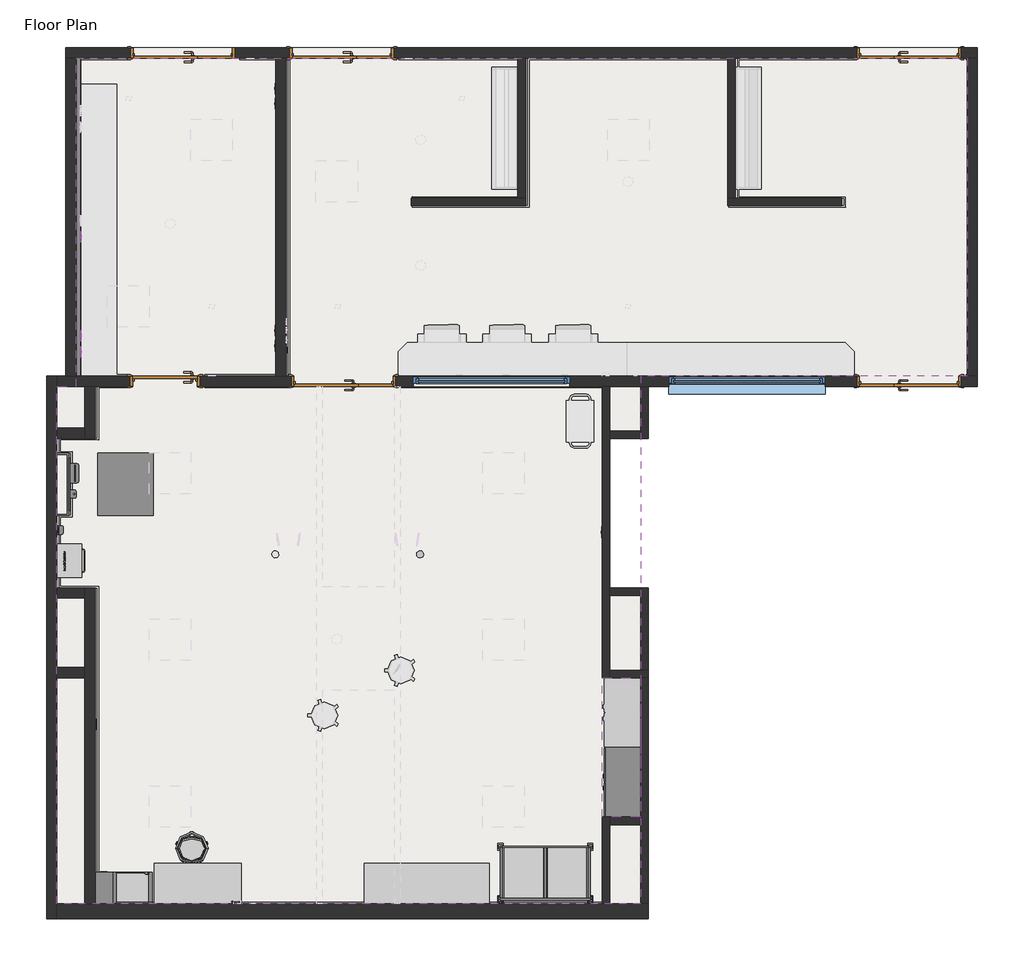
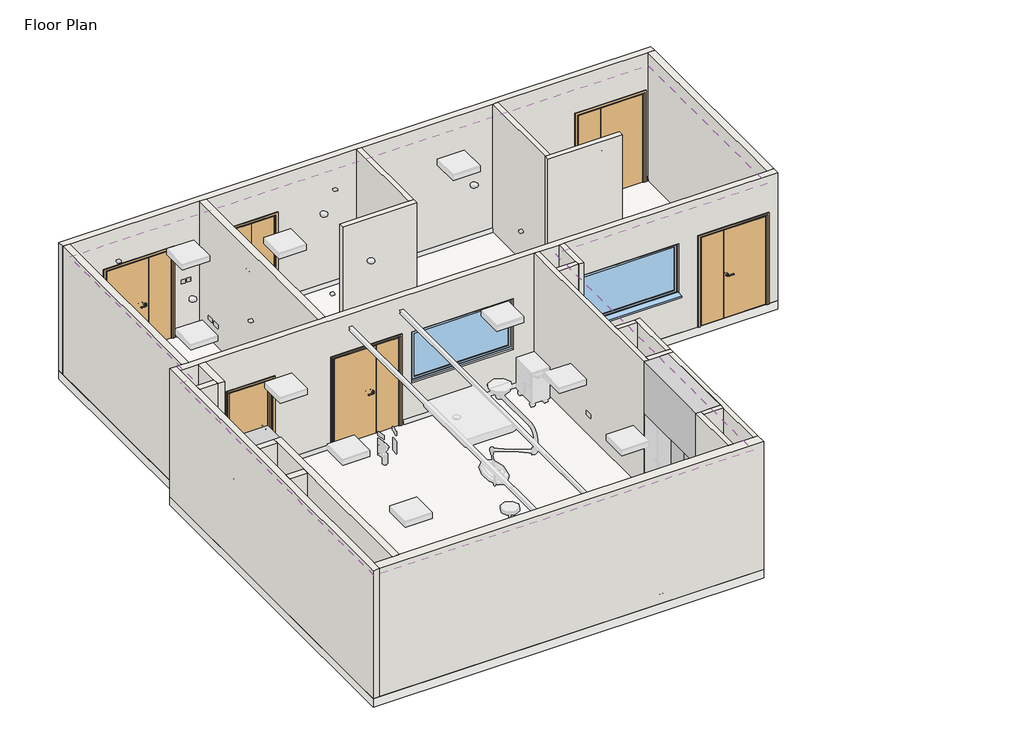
# One storey, part 1 of 2: 25 walls, 13 furniture elements, 6 doors, 4 flow terminals, 2 windows, 1 covering, 1 slab.
"""IFC4 building model written with IfcOpenShell, lengths in millimetres."""

from ifc_helpers import new_model, si_unit, frame, origin, origin_with_axes, place, context, project, spatial, polyline, outline, extrude, faceted_brep, transform, mapped, element, save
from components import doors_intays_1_1510x2110mm_sgl_swing_c7e511a1, doors_intays_1_1510x2110mm_sgl_swing_36e02ed7, doors_intsgl_1_1010x2110mm_7920e6b8, flow_terminal_e4480bda, furniture_197fe330, furniture_127ff72e, furniture_4c9f86ae, furniture_9a96ea39, furniture_1bbdebfd, furniture_c6e90a8e, furniture_bd22f9ff, furniture_c4e44aa8, furniture_7efa7f5c, furniture_a2c4847b, furniture_385ba860, furniture_166ce8d1, furniture_26d36cfe, windows_concept_plain_sgl_910x910mm_838159d6, windows_concept_plain_sgl_910x910mm_1e5f782d

model = new_model("IFC4")

# Units and contexts
model_context = context("Model", 3, world=origin())
ifc_project = project(units=[si_unit("LENGTHUNIT", "METRE", prefix="MILLI")], contexts=[model_context])

# Site, building, storey
site = spatial("IfcSite", under=ifc_project)
building = spatial("IfcBuilding", under=site)
storey = spatial("IfcBuildingStorey", under=building, Name="Floor Plan", Elevation=0.0)

# Covering
placement = place(None, origin())
element("IfcCovering", 1, ObjectType="BIMHealth - Generic Ceiling", at=placement, inside=storey, context=model_context, shape_type="SweptSolid", body=[
    extrude(outline(polyline([(23082.333779, 4966.1026634), (23082.333779, -2633.8974181), (14682.1336188, -2633.8974181), (14682.1336188, 4816.1026634), (14957.1336188, 4816.1026634), (14957.1336188, 9541.1029988), (27782.1336188, 9541.1029988), (27782.1336188, 4966.1026634), (23082.333779, 4966.1026634)]), holes=[polyline([(16608.6241155, 3866.7284231), (16008.6241155, 3866.7284231), (16008.6241155, 3266.7284231), (16608.6241155, 3266.7284231), (16608.6241155, 3866.7284231)]), polyline([(21408.6241155, 3866.7284231), (20808.6241155, 3866.7284231), (20808.6241155, 3266.7284231), (21408.6241155, 3266.7284231), (21408.6241155, 3866.7284231)]), polyline([(16608.6241155, -933.2715769), (16008.6241155, -933.2715769), (16008.6241155, -1533.2715769), (16608.6241155, -1533.2715769), (16608.6241155, -933.2715769)]), polyline([(21408.6241155, -933.2715769), (20808.6241155, -933.2715769), (20808.6241155, -1533.2715769), (21408.6241155, -1533.2715769), (21408.6241155, -933.2715769)]), polyline([(16608.6241155, 1466.7284231), (16008.6241155, 1466.7284231), (16008.6241155, 866.7284231), (16608.6241155, 866.7284231), (16608.6241155, 1466.7284231)]), polyline([(21408.6241155, 1466.7284231), (20808.6241155, 1466.7284231), (20808.6241155, 866.7284231), (21408.6241155, 866.7284231), (21408.6241155, 1466.7284231)]), polyline([(16008.6241155, 6266.7284231), (15408.6241155, 6266.7284231), (15408.6241155, 5666.7284231), (16008.6241155, 5666.7284231), (16008.6241155, 6266.7284231)]), polyline([(17208.6241155, 8666.7284231), (16608.6241155, 8666.7284231), (16608.6241155, 8066.7284231), (17208.6241155, 8066.7284231), (17208.6241155, 8666.7284231)]), polyline([(19008.6241155, 8066.7284231), (18408.6241155, 8066.7284231), (18408.6241155, 7466.7284231), (19008.6241155, 7466.7284231), (19008.6241155, 8066.7284231)]), polyline([(23208.6241155, 8666.7284231), (22608.6241155, 8666.7284231), (22608.6241155, 8066.7284231), (23208.6241155, 8066.7284231), (23208.6241155, 8666.7284231)])]), frame((0.0, 0.0, 2700.0), z_axis=(0.0, 0.0, 1.0), x_axis=(1.0, 0.0, 0.0)), (0.0, 0.0, 1.0), 52.0),
])

# Doors
doors_intays_1_1510x2110mm_sgl_swing_shape = doors_intays_1_1510x2110mm_sgl_swing_c7e511a1(model_context)
element("IfcDoor", 2, ObjectType="Doors_IntAys_1 : 1510x2110mm-Sgl_Swing", at=placement, inside=storey, context=model_context, shape_type="MappedRepresentation", body=[
    mapped(doors_intays_1_1510x2110mm_sgl_swing_shape, transform((19196.1336188, 4891.1026634, 0.0), x_axis=(-1.0, 0.0, 0.0), y_axis=(0.0, -1.0, 0.0), z_axis=(0.0, 0.0, 1.0))),
])
element("IfcDoor", 3, ObjectType="Doors_IntAys_1 : 1510x2110mm-Sgl_Swing", at=placement, inside=storey, context=model_context, shape_type="MappedRepresentation", body=[
    mapped(doors_intays_1_1510x2110mm_sgl_swing_shape, transform((19171.1339303, 9616.1029988, 0.0), x_axis=(-1.0, 0.0, 0.0), y_axis=(0.0, -1.0, 0.0), z_axis=(0.0, 0.0, 1.0))),
])
element("IfcDoor", 4, ObjectType="Doors_IntAys_1 : 1510x2110mm-Sgl_Swing", at=placement, inside=storey, context=model_context, shape_type="MappedRepresentation", body=[
    mapped(doors_intays_1_1510x2110mm_sgl_swing_shape, transform((16881.1337745, 9616.1029988, 0.0), x_axis=(-1.0, 0.0, 0.0), y_axis=(0.0, -1.0, 0.0), z_axis=(0.0, 0.0, 1.0))),
])
doors_intays_1_1510x2110mm_sgl_swing_2_shape = doors_intays_1_1510x2110mm_sgl_swing_36e02ed7(model_context)
element("IfcDoor", 5, ObjectType="Doors_IntAys_1 : 1510x2110mm-Sgl_Swing", at=placement, inside=storey, context=model_context, shape_type="MappedRepresentation", body=[
    mapped(doors_intays_1_1510x2110mm_sgl_swing_2_shape, transform((26558.1336188, 9616.1029988, 0.0), x_axis=(1.0, 0.0, 0.0), y_axis=(0.0, 1.0, 0.0), z_axis=(0.0, 0.0, 1.0))),
])
element("IfcDoor", 6, ObjectType="Doors_IntAys_1 : 1510x2110mm-Sgl_Swing", at=placement, inside=storey, context=model_context, shape_type="MappedRepresentation", body=[
    mapped(doors_intays_1_1510x2110mm_sgl_swing_2_shape, transform((26558.1336188, 4891.1026634, 0.0), x_axis=(1.0, 0.0, 0.0), y_axis=(0.0, 1.0, 0.0), z_axis=(0.0, 0.0, 1.0))),
])
doors_intsgl_1_1010x2110mm_shape = doors_intsgl_1_1010x2110mm_7920e6b8(model_context)
element("IfcDoor", 7, ObjectType="Doors_IntSgl_1 : 1010x2110mm", at=placement, inside=storey, context=model_context, shape_type="MappedRepresentation", body=[
    mapped(doors_intsgl_1_1010x2110mm_shape, transform((16237.333647, 4891.1026634, 0.0), x_axis=(-1.0, 0.0, 0.0), y_axis=(0.0, -1.0, 0.0), z_axis=(0.0, 0.0, 1.0))),
])

# Flow terminals
flow_terminal_shape = flow_terminal_e4480bda(model_context)
element("IfcFlowTerminal", 8, ObjectType="BIMHealth-Electrical_Double_Socket-Non_Wall_Mounted_Realistic-LOD2A-v1 : BIMHealth-Electrical_Double_Socket-Non_Wall_Mounted_Realistic-LOD2A-v1", at=placement, inside=storey, context=model_context, shape_type="MappedRepresentation", body=[
    mapped(flow_terminal_shape, transform((15232.333647, -53.896835, 0.0), x_axis=(0.0, -1.0000000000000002, 0.0), y_axis=(1.0000000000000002, 0.0, 0.0), z_axis=(0.0, 0.0, 1.0))),
])
element("IfcFlowTerminal", 9, ObjectType="BIMHealth-Electrical_Double_Socket-Non_Wall_Mounted_Realistic-LOD2A-v1 : BIMHealth-Electrical_Double_Socket-Non_Wall_Mounted_Realistic-LOD2A-v1", at=placement, inside=storey, context=model_context, shape_type="MappedRepresentation", body=[
    mapped(flow_terminal_shape, transform((15017.333647, 5546.1026634, 750.0), x_axis=(0.0, -0.9999999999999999, 0.0), y_axis=(0.9999999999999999, 0.0, 0.0), z_axis=(0.0, 0.0, 1.0))),
])
element("IfcFlowTerminal", 10, ObjectType="BIMHealth-Electrical_Double_Socket-Non_Wall_Mounted_Realistic-LOD2A-v1 : BIMHealth-Electrical_Double_Socket-Non_Wall_Mounted_Realistic-LOD2A-v1", at=placement, inside=storey, context=model_context, shape_type="MappedRepresentation", body=[
    mapped(flow_terminal_shape, transform((15017.333647, 5311.1026634, 750.0), x_axis=(0.0, -0.9999999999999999, 0.0), y_axis=(0.9999999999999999, 0.0, 0.0), z_axis=(0.0, 0.0, 1.0))),
])
element("IfcFlowTerminal", 11, ObjectType="BIMHealth-Electrical_Double_Socket-Non_Wall_Mounted_Realistic-LOD2A-v1 : BIMHealth-Electrical_Double_Socket-Non_Wall_Mounted_Realistic-LOD2A-v1", at=placement, inside=storey, context=model_context, shape_type="MappedRepresentation", body=[
    mapped(flow_terminal_shape, transform((15017.333647, 6971.1026634, 750.0), x_axis=(0.0, -0.9999999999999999, 0.0), y_axis=(0.9999999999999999, 0.0, 0.0), z_axis=(0.0, 0.0, 1.0))),
])

# Furniture
furniture_shape = furniture_197fe330(model_context)
element("IfcFurniture", 12, ObjectType="BIMHealth-Sack_Holder_Domestic-LOD2A-v1 : BIMHealth-Sack_Holder_Domestic-LOD2A-v1", at=placement, inside=storey, context=model_context, shape_type="MappedRepresentation", body=[
    mapped(furniture_shape, transform((14702.333647, 2085.9031744, 0.0), x_axis=(0.0, 1.0000000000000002, 0.0), y_axis=(-1.0000000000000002, 0.0, 0.0), z_axis=(0.0, 0.0, 1.0))),
])
furniture_2_shape = furniture_127ff72e(model_context)
element("IfcFurniture", 13, ObjectType="BIMHealth-Tall_Stool_V2-LOD2A-v1 : BIMHealth-Tall_Stool_V2-LOD2A-v1", at=placement, inside=storey, context=model_context, shape_type="MappedRepresentation", body=[
    mapped(furniture_2_shape, transform((16623.7884839, -1833.8974181, 0.0), x_axis=(1.0, 0.0, 0.0), y_axis=(0.0, 1.0, 0.0), z_axis=(0.0, 0.0, 1.0))),
])
furniture_3_shape = furniture_4c9f86ae(model_context)
element("IfcFurniture", 14, ObjectType="BIMHealth-Worktop_Parametric-LOD2A-v1 : BIMHealth-Worktop_Parametric-LOD2A-v1", at=placement, inside=storey, context=model_context, shape_type="MappedRepresentation", body=[
    mapped(furniture_3_shape, transform((20541.3546438, -2083.8974181, 0.0), x_axis=(0.0, 1.0000000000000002, 0.0), y_axis=(-1.0000000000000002, 0.0, 0.0), z_axis=(0.0, 0.0, 1.0))),
])
furniture_4_shape = furniture_9a96ea39(model_context)
element("IfcFurniture", 15, ObjectType="BIMHealth-Heated_Lotion_Cabinet-LOD2A-v1 : BIMHealth-Heated_Lotion_Cabinet-LOD2A-v1", at=placement, inside=storey, context=model_context, shape_type="MappedRepresentation", body=[
    mapped(furniture_4_shape, transform((15882.333647, -2408.8974181, 0.0), x_axis=(1.0, 0.0, 0.0), y_axis=(0.0, 1.0, 0.0), z_axis=(0.0, 0.0, 1.0))),
])
furniture_5_shape = furniture_1bbdebfd(model_context)
element("IfcFurniture", 16, ObjectType="BIMHealth-Catheter_Rack-v1 : BIMHealth-Catheter_Rack-v1", at=placement, inside=storey, context=model_context, shape_type="MappedRepresentation", body=[
    mapped(furniture_5_shape, transform((21712.1336188, -2193.8974181, 0.0), x_axis=(-1.0000000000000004, 0.0, 0.0), y_axis=(0.0, -1.0000000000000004, 0.0), z_axis=(0.0, 0.0, 1.0))),
])
furniture_6_shape = furniture_c6e90a8e(model_context)
element("IfcFurniture", 17, ObjectType="BIMHealth-Desk_Consultant_Metal-LOD2A-v1 : BIMHealth-Desk_Consultant_Metal-LOD2A-v1", at=placement, inside=storey, context=model_context, shape_type="MappedRepresentation", body=[
    mapped(furniture_6_shape, transform((17333.7884839, -2633.8974181, 5.5970517), x_axis=(-1.0000000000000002, 0.0, 0.0), y_axis=(0.0, -1.0000000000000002, 0.0), z_axis=(0.0, 0.0, 1.0))),
])
furniture_7_shape = furniture_bd22f9ff(model_context)
element("IfcFurniture", 18, ObjectType="BIMHealth-Document_Cabinet-LOD2A-v1 : BIMHealth-Document_Cabinet-LOD2A-v1", at=placement, inside=storey, context=model_context, shape_type="MappedRepresentation", body=[
    mapped(furniture_7_shape, transform((22827.333779, -883.896835, 0.0), x_axis=(0.0, -1.0000000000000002, 0.0), y_axis=(1.0000000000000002, 0.0, 0.0), z_axis=(0.0, 0.0, 1.0))),
])
furniture_8_shape = furniture_c4e44aa8(model_context)
element("IfcFurniture", 19, ObjectType="BIMHealth-Dado_Trunking_Recessed_Non-Wall-Hosted-LOD2A-v1 : BIMHealth-Dado_Trunking_Recessed_Non-Wall-Hosted-LOD2A-v1", at=placement, inside=storey, context=model_context, shape_type="MappedRepresentation", body=[
    mapped(furniture_8_shape, transform((14957.1336188, 7253.6026634, 0.0), x_axis=(0.0, 1.0000000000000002, 0.0), y_axis=(-1.0000000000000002, 0.0, 0.0), z_axis=(0.0, 0.0, 1.0))),
])
furniture_9_shape = furniture_7efa7f5c(model_context)
element("IfcFurniture", 20, ObjectType="BIMHealth-Parametric_Infill-LOD2A-v1 : BIMHealth-Parametric_Infill-LOD2A-v1", at=placement, inside=storey, context=model_context, shape_type="MappedRepresentation", body=[
    mapped(furniture_9_shape, transform((22807.2336989, -384.7075881, 1800.0), x_axis=(1.0, 0.0, 0.0), y_axis=(0.0, 1.0, 0.0), z_axis=(0.0, 0.0, 1.0))),
])
furniture_10_shape = furniture_a2c4847b(model_context)
element("IfcFurniture", 21, ObjectType="BIMHealth-Washstation-LOD2A-v1 : BIMHealth-Washstation-LOD2A-v1", at=placement, inside=storey, context=model_context, shape_type="MappedRepresentation", body=[
    mapped(furniture_10_shape, transform((14682.1336188, 3855.9031744, 0.0), x_axis=(0.0, 1.0000000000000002, 0.0), y_axis=(-1.0000000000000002, 0.0, 0.0), z_axis=(0.0, 0.0, 1.0))),
])
furniture_11_shape = furniture_385ba860(model_context)
element("IfcFurniture", 22, ObjectType="BIMHealth-Alcohol_gel_dispenser-LOD2A-v1 : BIMHealth-Alcohol_gel_dispenser-LOD2A-v1", at=placement, inside=storey, context=model_context, shape_type="MappedRepresentation", body=[
    mapped(furniture_11_shape, transform((14682.1336188, 2685.9031744, 0.0), x_axis=(0.0, 1.0000000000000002, 0.0), y_axis=(-1.0000000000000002, 0.0, 0.0), z_axis=(0.0, 0.0, 1.0))),
])
furniture_12_shape = furniture_166ce8d1(model_context)
element("IfcFurniture", 23, ObjectType="BIMHealth-Paper_Towel_Dispenser-LOD2A-v1 : BIMHealth-Paper_Towel_Dispenser-LOD2A-v1", at=placement, inside=storey, context=model_context, shape_type="MappedRepresentation", body=[
    mapped(furniture_12_shape, transform((14868.1336188, 3425.9031744, 0.0), x_axis=(0.0, 1.0, 0.0), y_axis=(-1.0, 0.0, 0.0), z_axis=(0.0, 0.0, 1.0))),
])
furniture_13_shape = furniture_26d36cfe(model_context)
element("IfcFurniture", 24, ObjectType="BIMHealth-Soap_Dispenser-LOD2A-v1 : BIMHealth-Soap_Dispenser-LOD2A-v1", at=placement, inside=storey, context=model_context, shape_type="MappedRepresentation", body=[
    mapped(furniture_13_shape, transform((14868.1336188, 3206.1026634, 0.0), x_axis=(0.0, 1.0000000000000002, 0.0), y_axis=(-1.0000000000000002, 0.0, 0.0), z_axis=(0.0, 0.0, 1.0))),
])

# Slab
element("IfcSlab", 25, ObjectType="BIMHealth - Generic Floor", at=placement, inside=storey, context=model_context, shape_type="SweptSolid", body=[
    extrude(outline(polyline([(23192.333779, 1916.1036573), (23192.333779, -2853.8974181), (14532.1336188, -2853.8974181), (14532.1336188, 4966.1026634), (14807.1336188, 4966.1026634), (14807.1336188, 9691.1029988), (27932.1336188, 9691.1029988), (27932.1336188, 4816.1026634), (23192.333779, 4816.1026634), (23192.333779, 4065.9031368), (22642.1336188, 4065.9031368), (22642.1336188, 1916.1036573), (23192.333779, 1916.1036573)])), frame((0.0, 0.0, -200.0), z_axis=(0.0, 0.0, 1.0), x_axis=(1.0, 0.0, 0.0)), (0.0, 0.0, 1.0), 200.0),
])

# Walls
element("IfcWall", 26, ObjectType="BIMHealth - Generic Wall", at=placement, inside=storey, context=model_context, shape_type="Brep", body=[
    faceted_brep([(27932.1336188, 4816.1026634, 3000.0), (23192.333779, 4816.1026634, 3000.0), (23082.333779, 4816.1026634, 3000.0), (22642.1336188, 4816.1026634, 3000.0), (22532.1336188, 4816.1026634, 3000.0), (15232.333647, 4816.1026634, 3000.0), (15082.333647, 4816.1026634, 3000.0), (14682.1336188, 4816.1026634, 3000.0), (14682.1336188, 4816.1026634, 0.0), (15082.333647, 4816.1026634, 0.0), (15232.333647, 4816.1026634, 0.0), (15732.333647, 4816.1026634, 0.0), (15732.333647, 4816.1026634, 2110.0), (16742.333647, 4816.1026634, 2110.0), (16742.333647, 4816.1026634, 0.0), (18052.1336188, 4816.1026634, 0.0), (18052.1336188, 4816.1026634, 2110.0), (19562.1336188, 4816.1026634, 2110.0), (19562.1336188, 4816.1026634, 0.0), (22532.1336188, 4816.1026634, 0.0), (22642.1336188, 4816.1026634, 0.0), (23082.333779, 4816.1026634, 0.0), (23192.333779, 4816.1026634, 0.0), (26192.1336188, 4816.1026634, 0.0), (26192.1336188, 4816.1026634, 2110.0), (27702.1336188, 4816.1026634, 2110.0), (27702.1336188, 4816.1026634, 0.0), (27932.1336188, 4816.1026634, 0.0), (25741.6151134, 4816.1026634, 2100.0), (25741.6151134, 4816.1026634, 900.0), (23491.6151134, 4816.1026634, 900.0), (23491.6151134, 4816.1026634, 2100.0), (22062.1336188, 4816.1026634, 2100.0), (22062.1336188, 4816.1026634, 900.0), (19812.1336188, 4816.1026634, 900.0), (19812.1336188, 4816.1026634, 2100.0), (14682.1336188, 4966.1026634, 3000.0), (14807.1336188, 4966.1026634, 3000.0), (14957.1336188, 4966.1026634, 3000.0), (17832.1336188, 4966.1026634, 3000.0), (17982.1336188, 4966.1026634, 3000.0), (27782.1336188, 4966.1026634, 3000.0), (27932.1336188, 4966.1026634, 3000.0), (27932.1336188, 4966.1026634, 0.0), (27782.1336188, 4966.1026634, 0.0), (27702.1336188, 4966.1026634, 0.0), (27702.1336188, 4966.1026634, 2110.0), (26192.1336188, 4966.1026634, 2110.0), (26192.1336188, 4966.1026634, 0.0), (19562.1336188, 4966.1026634, 0.0), (19562.1336188, 4966.1026634, 2110.0), (18052.1336188, 4966.1026634, 2110.0), (18052.1336188, 4966.1026634, 0.0), (17982.1336188, 4966.1026634, 0.0), (17832.1336188, 4966.1026634, 0.0), (16742.333647, 4966.1026634, 0.0), (16742.333647, 4966.1026634, 2110.0), (15732.333647, 4966.1026634, 2110.0), (15732.333647, 4966.1026634, 0.0), (14957.1336188, 4966.1026634, 0.0), (14807.1336188, 4966.1026634, 0.0), (14682.1336188, 4966.1026634, 0.0), (25741.6151134, 4966.1026634, 2100.0), (23491.6151134, 4966.1026634, 2100.0), (23491.6151134, 4966.1026634, 900.0), (25741.6151134, 4966.1026634, 900.0), (22062.1336188, 4966.1026634, 2100.0), (19812.1336188, 4966.1026634, 2100.0), (19812.1336188, 4966.1026634, 900.0), (22062.1336188, 4966.1026634, 900.0)], [[[0, 1, 2, 3, 4, 5, 6, 7, 8, 9, 10, 11, 12, 13, 14, 15, 16, 17, 18, 19, 20, 21, 22, 23, 24, 25, 26, 27], [28, 29, 30, 31], [32, 33, 34, 35]], [[36, 37, 38, 39, 40, 41, 42, 43, 44, 45, 46, 47, 48, 49, 50, 51, 52, 53, 54, 55, 56, 57, 58, 59, 60, 61], [62, 63, 64, 65], [66, 67, 68, 69]], [[43, 27, 26, 45, 44]], [[8, 61, 60, 59, 58, 11, 10, 9]], [[52, 15, 14, 55, 54, 53]], [[18, 49, 48, 23, 22, 21, 20, 19]], [[7, 6, 5, 4, 3, 2, 1, 0, 42, 41, 40, 39, 38, 37, 36]], [[0, 27, 43, 42]], [[8, 7, 36, 61]], [[29, 28, 62, 65]], [[30, 29, 65, 64]], [[31, 30, 64, 63]], [[28, 31, 63, 62]], [[33, 32, 66, 69]], [[34, 33, 69, 68]], [[35, 34, 68, 67]], [[32, 35, 67, 66]], [[51, 16, 15, 52]], [[16, 51, 50, 17]], [[17, 50, 49, 18]], [[25, 46, 45, 26]], [[46, 25, 24, 47]], [[47, 24, 23, 48]], [[57, 12, 11, 58]], [[12, 57, 56, 13]], [[13, 56, 55, 14]]]),
])
element("IfcWall", 27, ObjectType="BIMHealth - Generic Wall", at=placement, inside=storey, context=model_context, shape_type="Brep", body=[
    faceted_brep([(14807.1336188, 9691.1029988, 3000.0), (27932.1336188, 9691.1029988, 3000.0), (27932.1336188, 9691.1029988, 0.0), (27702.1336188, 9691.1029988, 0.0), (27702.1336188, 9691.1029988, 2110.0), (26192.1336188, 9691.1029988, 2110.0), (26192.1336188, 9691.1029988, 0.0), (19537.1339303, 9691.1029988, 0.0), (19537.1339303, 9691.1029988, 2110.0), (18027.1339303, 9691.1029988, 2110.0), (18027.1339303, 9691.1029988, 0.0), (17247.1337745, 9691.1029988, 0.0), (17247.1337745, 9691.1029988, 2110.0), (15737.1337745, 9691.1029988, 2110.0), (15737.1337745, 9691.1029988, 0.0), (14807.1336188, 9691.1029988, 0.0), (27932.1336188, 9541.1029988, 3000.0), (27782.1336188, 9541.1029988, 3000.0), (24447.1333073, 9541.1029988, 3000.0), (24337.1333073, 9541.1029988, 3000.0), (21427.1339303, 9541.1029988, 3000.0), (21317.1339303, 9541.1029988, 3000.0), (17982.1336188, 9541.1029988, 3000.0), (17832.1336188, 9541.1029988, 3000.0), (14957.1336188, 9541.1029988, 3000.0), (14807.1336188, 9541.1029988, 3000.0), (14807.1336188, 9541.1029988, 0.0), (14957.1336188, 9541.1029988, 0.0), (15737.1337745, 9541.1029988, 0.0), (15737.1337745, 9541.1029988, 2110.0), (17247.1337745, 9541.1029988, 2110.0), (17247.1337745, 9541.1029988, 0.0), (17832.1336188, 9541.1029988, 0.0), (17982.1336188, 9541.1029988, 0.0), (18027.1339303, 9541.1029988, 0.0), (18027.1339303, 9541.1029988, 2110.0), (19537.1339303, 9541.1029988, 2110.0), (19537.1339303, 9541.1029988, 0.0), (21317.1339303, 9541.1029988, 0.0), (21427.1339303, 9541.1029988, 0.0), (24337.1333073, 9541.1029988, 0.0), (24447.1333073, 9541.1029988, 0.0), (26192.1336188, 9541.1029988, 0.0), (26192.1336188, 9541.1029988, 2110.0), (27702.1336188, 9541.1029988, 2110.0), (27702.1336188, 9541.1029988, 0.0), (27782.1336188, 9541.1029988, 0.0), (27932.1336188, 9541.1029988, 0.0)], [[[0, 1, 2, 3, 4, 5, 6, 7, 8, 9, 10, 11, 12, 13, 14, 15]], [[16, 17, 18, 19, 20, 21, 22, 23, 24, 25, 26, 27, 28, 29, 30, 31, 32, 33, 34, 35, 36, 37, 38, 39, 40, 41, 42, 43, 44, 45, 46, 47]], [[26, 15, 14, 28, 27]], [[2, 47, 46, 45, 3]], [[10, 34, 33, 32, 31, 11]], [[37, 7, 6, 42, 41, 40, 39, 38]], [[1, 0, 25, 24, 23, 22, 21, 20, 19, 18, 17, 16]], [[0, 15, 26, 25]], [[2, 1, 16, 47]], [[9, 35, 34, 10]], [[35, 9, 8, 36]], [[36, 8, 7, 37]], [[13, 29, 28, 14]], [[29, 13, 12, 30]], [[30, 12, 11, 31]], [[44, 4, 3, 45]], [[4, 44, 43, 5]], [[5, 43, 42, 6]]]),
])
element("IfcWall", 28, ObjectType="BIMHealth - Generic Wall", at=placement, inside=storey, context=model_context, shape_type="SweptSolid", body=[
    extrude(outline(polyline([(14807.1336188, 4966.1026634), (14807.1336188, 9541.1029988), (14957.1336188, 9541.1029988), (14957.1336188, 4966.1026634), (14807.1336188, 4966.1026634)])), origin_with_axes(), (0.0, 0.0, 1.0), 3000.0),
])
element("IfcWall", 29, ObjectType="BIMHealth - Generic Wall", at=placement, inside=storey, context=model_context, shape_type="SweptSolid", body=[
    extrude(outline(polyline([(27932.1336188, 9541.1029988), (27932.1336188, 4966.1026634), (27782.1336188, 4966.1026634), (27782.1336188, 9541.1029988), (27932.1336188, 9541.1029988)])), origin_with_axes(), (0.0, 0.0, 1.0), 3000.0),
])
element("IfcWall", 30, ObjectType="BIMHealth - Generic Wall", at=placement, inside=storey, context=model_context, shape_type="Brep", body=[
    faceted_brep([(14532.1336188, 4966.1026634, 0.0), (14532.1336188, -2853.8974181, 0.0), (14532.1336188, -2853.8974181, 3000.0), (14532.1336188, 4966.1026634, 3000.0), (14682.1336188, 4966.1026634, 0.0), (14682.1336188, 4966.1026634, 3000.0), (14682.1336188, 4816.1026634, 3000.0), (14682.1336188, 4215.9031744, 3000.0), (14682.1336188, 4065.9031744, 3000.0), (14682.1336188, 1916.1036259, 3000.0), (14682.1336188, 1766.1036259, 3000.0), (14682.1336188, 766.1026445, 3000.0), (14682.1336188, 616.1026445, 3000.0), (14682.1336188, -2633.8974181, 3000.0), (14682.1336188, -2853.8974181, 3000.0), (14682.1336188, -2853.8974181, 0.0), (14682.1336188, -2633.8974181, 0.0), (14682.1336188, 616.1026445, 0.0), (14682.1336188, 766.1026445, 0.0), (14682.1336188, 1766.1036259, 0.0), (14682.1336188, 1916.1036259, 0.0), (14682.1336188, 4065.9031744, 0.0), (14682.1336188, 4215.9031744, 0.0), (14682.1336188, 4816.1026634, 0.0)], [[[0, 1, 2, 3]], [[4, 5, 6, 7, 8, 9, 10, 11, 12, 13, 14, 15, 16, 17, 18, 19, 20, 21, 22, 23]], [[1, 0, 4, 23, 22, 21, 20, 19, 18, 17, 16, 15]], [[3, 2, 14, 13, 12, 11, 10, 9, 8, 7, 6, 5]], [[2, 1, 15, 14]], [[0, 3, 5, 4]]]),
])
element("IfcWall", 31, ObjectType="BIMHealth - Generic Wall", at=placement, inside=storey, context=model_context, shape_type="Brep", body=[
    faceted_brep([(15232.333647, -2633.8974181, 0.0), (15232.333647, 1916.1036259, 0.0), (15232.333647, 1916.1036259, 3000.0), (15232.333647, -2633.8974181, 3000.0), (15082.333647, -2633.8974181, 0.0), (15082.333647, -2633.8974181, 3000.0), (15082.333647, 616.1026445, 3000.0), (15082.333647, 766.1026445, 3000.0), (15082.333647, 1766.1036259, 3000.0), (15082.333647, 1916.1036259, 3000.0), (15082.333647, 1916.1036259, 0.0), (15082.333647, 1766.1036259, 0.0), (15082.333647, 766.1026445, 0.0), (15082.333647, 616.1026445, 0.0)], [[[0, 1, 2, 3]], [[4, 5, 6, 7, 8, 9, 10, 11, 12, 13]], [[1, 0, 4, 13, 12, 11, 10]], [[3, 2, 9, 8, 7, 6, 5]], [[0, 3, 5, 4]], [[2, 1, 10, 9]]]),
])
element("IfcWall", 32, ObjectType="BIMHealth - Generic Wall", at=placement, inside=storey, context=model_context, shape_type="SweptSolid", body=[
    extrude(outline(polyline([(14682.1336188, 1916.1036259), (15082.333647, 1916.1036259), (15082.333647, 1766.1036259), (14682.1336188, 1766.1036259), (14682.1336188, 1916.1036259)])), origin_with_axes(), (0.0, 0.0, 1.0), 3000.0),
])
element("IfcWall", 33, ObjectType="BIMHealth - Generic Wall", at=placement, inside=storey, context=model_context, shape_type="SweptSolid", body=[
    extrude(outline(polyline([(14682.1336188, 766.1026445), (15082.333647, 766.1026445), (15082.333647, 616.1026445), (14682.1336188, 616.1026445), (14682.1336188, 766.1026445)])), origin_with_axes(), (0.0, 0.0, 1.0), 3000.0),
])
element("IfcWall", 34, ObjectType="BIMHealth - Generic Wall", at=placement, inside=storey, context=model_context, shape_type="Brep", body=[
    faceted_brep([(15082.333647, 4816.1026634, 0.0), (15082.333647, 4215.9031744, 0.0), (15082.333647, 4065.9031744, 0.0), (15082.333647, 4065.9031744, 3000.0), (15082.333647, 4215.9031744, 3000.0), (15082.333647, 4816.1026634, 3000.0), (15232.333647, 4816.1026634, 0.0), (15232.333647, 4816.1026634, 3000.0), (15232.333647, 4065.9031744, 3000.0), (15232.333647, 4065.9031744, 0.0)], [[[0, 1, 2, 3, 4, 5]], [[6, 7, 8, 9]], [[2, 1, 0, 6, 9]], [[5, 4, 3, 8, 7]], [[0, 5, 7, 6]], [[3, 2, 9, 8]]]),
])
element("IfcWall", 35, ObjectType="BIMHealth - Generic Wall", at=placement, inside=storey, context=model_context, shape_type="SweptSolid", body=[
    extrude(outline(polyline([(14682.1336188, 4215.9031744), (15082.333647, 4215.9031744), (15082.333647, 4065.9031744), (14682.1336188, 4065.9031744), (14682.1336188, 4215.9031744)])), origin_with_axes(), (0.0, 0.0, 1.0), 3000.0),
])
element("IfcWall", 36, ObjectType="BIMHealth - Generic Wall", at=placement, inside=storey, context=model_context, shape_type="SweptSolid", body=[
    extrude(outline(polyline([(17982.1336188, 9541.1029988), (17982.1336188, 4966.1026634), (17832.1336188, 4966.1026634), (17832.1336188, 9541.1029988), (17982.1336188, 9541.1029988)])), origin_with_axes(), (0.0, 0.0, 1.0), 3000.0),
])
element("IfcWall", 37, ObjectType="BIMHealth - Generic Wall 2", at=placement, inside=storey, context=model_context, shape_type="Brep", body=[
    faceted_brep([(23192.333779, 4065.9031368, 0.0), (23192.333779, 4816.1026634, 0.0), (23192.333779, 4816.1026634, 3000.0), (23192.333779, 4065.9031368, 3000.0), (23082.333779, 4065.9031368, 0.0), (23082.333779, 4065.9031368, 3000.0), (23082.333779, 4175.9031368, 3000.0), (23082.333779, 4816.1026634, 3000.0), (23082.333779, 4816.1026634, 0.0), (23082.333779, 4175.9031368, 0.0)], [[[0, 1, 2, 3]], [[4, 5, 6, 7, 8, 9]], [[1, 0, 4, 9, 8]], [[3, 2, 7, 6, 5]], [[2, 1, 8, 7]], [[0, 3, 5, 4]]]),
])
element("IfcWall", 38, ObjectType="BIMHealth - Generic Wall 2", at=placement, inside=storey, context=model_context, shape_type="Brep", body=[
    faceted_brep([(22532.1336188, 4816.1026634, 0.0), (22532.1336188, 616.103165, 0.0), (22532.1336188, 616.103165, 3000.0), (22532.1336188, 4816.1026634, 3000.0), (22642.1336188, 4816.1026634, 0.0), (22642.1336188, 4816.1026634, 3000.0), (22642.1336188, 4175.9031368, 3000.0), (22642.1336188, 4065.9031368, 3000.0), (22642.1336188, 1916.1036573, 3000.0), (22642.1336188, 1806.1036573, 3000.0), (22642.1336188, 726.103165, 3000.0), (22642.1336188, 616.103165, 3000.0), (22642.1336188, 616.103165, 0.0), (22642.1336188, 726.103165, 0.0), (22642.1336188, 1806.1036573, 0.0), (22642.1336188, 1916.1036573, 0.0), (22642.1336188, 4065.9031368, 0.0), (22642.1336188, 4175.9031368, 0.0)], [[[0, 1, 2, 3]], [[4, 5, 6, 7, 8, 9, 10, 11, 12, 13, 14, 15, 16, 17]], [[1, 0, 4, 17, 16, 15, 14, 13, 12]], [[3, 2, 11, 10, 9, 8, 7, 6, 5]], [[0, 3, 5, 4]], [[2, 1, 12, 11]]]),
])
element("IfcWall", 39, ObjectType="BIMHealth - Generic Wall 2", at=placement, inside=storey, context=model_context, shape_type="Brep", body=[
    faceted_brep([(22642.1336188, 616.103165, 0.0), (23082.333779, 616.103165, 0.0), (23192.333779, 616.103165, 0.0), (23192.333779, 616.103165, 3000.0), (23082.333779, 616.103165, 3000.0), (22642.1336188, 616.103165, 3000.0), (22642.1336188, 726.103165, 0.0), (22642.1336188, 726.103165, 3000.0), (23082.333779, 726.103165, 3000.0), (23192.333779, 726.103165, 3000.0), (23192.333779, 726.103165, 0.0), (23082.333779, 726.103165, 0.0)], [[[0, 1, 2, 3, 4, 5]], [[6, 7, 8, 9, 10, 11]], [[2, 1, 0, 6, 11, 10]], [[5, 4, 3, 9, 8, 7]], [[0, 5, 7, 6]], [[3, 2, 10, 9]]]),
])
element("IfcWall", 40, ObjectType="BIMHealth - Generic Wall 2", at=placement, inside=storey, context=model_context, shape_type="Brep", body=[
    faceted_brep([(23082.333779, 616.103165, 0.0), (23082.333779, -1385.5183413, 0.0), (23082.333779, -1495.5183413, 0.0), (23082.333779, -2633.8974181, 0.0), (23082.333779, -2633.8974181, 3000.0), (23082.333779, -1495.5183413, 3000.0), (23082.333779, -1385.5183413, 3000.0), (23082.333779, 616.103165, 3000.0), (23192.333779, 616.103165, 0.0), (23192.333779, 616.103165, 3000.0), (23192.333779, -2633.8974181, 3000.0), (23192.333779, -2633.8974181, 0.0)], [[[0, 1, 2, 3, 4, 5, 6, 7]], [[8, 9, 10, 11]], [[3, 2, 1, 0, 8, 11]], [[7, 6, 5, 4, 10, 9]], [[0, 7, 9, 8]], [[4, 3, 11, 10]]]),
])
element("IfcWall", 41, ObjectType="BIMHealth - Generic Wall 2", at=placement, inside=storey, context=model_context, shape_type="Brep", body=[
    faceted_brep([(22642.1334181, -2633.8974181, 0.0), (22642.1334181, -1495.5183413, 0.0), (22642.1334181, -1385.5183413, 0.0), (22642.1334181, -1385.5183413, 3000.0), (22642.1334181, -1495.5183413, 3000.0), (22642.1334181, -2633.8974181, 3000.0), (22532.1334181, -2633.8974181, 0.0), (22532.1334181, -2633.8974181, 3000.0), (22532.1334181, -1385.5183413, 3000.0), (22532.1334181, -1385.5183413, 0.0)], [[[0, 1, 2, 3, 4, 5]], [[6, 7, 8, 9]], [[2, 1, 0, 6, 9]], [[5, 4, 3, 8, 7]], [[0, 5, 7, 6]], [[3, 2, 9, 8]]]),
])
element("IfcWall", 42, ObjectType="BIMHealth - Generic Wall 2", at=placement, inside=storey, context=model_context, shape_type="SweptSolid", body=[
    extrude(outline(polyline([(23082.333779, -1495.5183413), (22642.1334181, -1495.5183413), (22642.1334181, -1385.5183413), (23082.333779, -1385.5183413), (23082.333779, -1495.5183413)])), origin_with_axes(), (0.0, 0.0, 1.0), 3000.0),
])
element("IfcWall", 43, ObjectType="BIMHealth - Generic Wall 2", at=placement, inside=storey, context=model_context, shape_type="Brep", body=[
    faceted_brep([(23192.333779, 726.103165, 0.0), (23192.333779, 1916.1036573, 0.0), (23192.333779, 1916.1036573, 3000.0), (23192.333779, 726.103165, 3000.0), (23082.333779, 726.103165, 0.0), (23082.333779, 726.103165, 3000.0), (23082.333779, 1806.1036573, 3000.0), (23082.333779, 1916.1036573, 3000.0), (23082.333779, 1916.1036573, 0.0), (23082.333779, 1806.1036573, 0.0)], [[[0, 1, 2, 3]], [[4, 5, 6, 7, 8, 9]], [[1, 0, 4, 9, 8]], [[3, 2, 7, 6, 5]], [[0, 3, 5, 4]], [[2, 1, 8, 7]]]),
])
element("IfcWall", 44, ObjectType="BIMHealth - Generic Wall 2", at=placement, inside=storey, context=model_context, shape_type="SweptSolid", body=[
    extrude(outline(polyline([(22642.1336188, 1916.1036573), (23082.333779, 1916.1036573), (23082.333779, 1806.1036573), (22642.1336188, 1806.1036573), (22642.1336188, 1916.1036573)])), origin_with_axes(), (0.0, 0.0, 1.0), 3000.0),
])
element("IfcWall", 45, ObjectType="BIMHealth - Generic Wall 2", at=placement, inside=storey, context=model_context, shape_type="SweptSolid", body=[
    extrude(outline(polyline([(22642.1336188, 4175.9031368), (23082.333779, 4175.9031368), (23082.333779, 4065.9031368), (22642.1336188, 4065.9031368), (22642.1336188, 4175.9031368)])), origin_with_axes(), (0.0, 0.0, 1.0), 3000.0),
])
element("IfcWall", 46, ObjectType="BIMHealth - Generic Wall 2", at=placement, inside=storey, context=model_context, shape_type="Brep", body=[
    faceted_brep([(19782.1336188, 7416.1001399, 0.0), (21427.1339303, 7416.1001399, 0.0), (21427.1339303, 7416.1001399, 3000.0), (19782.1336188, 7416.1001399, 3000.0), (19782.1336188, 7526.1001399, 0.0), (19782.1336188, 7526.1001399, 3000.0), (21317.1339303, 7526.1001399, 3000.0), (21427.1339303, 7526.1001399, 3000.0), (21427.1339303, 7526.1001399, 0.0), (21317.1339303, 7526.1001399, 0.0)], [[[0, 1, 2, 3]], [[4, 5, 6, 7, 8, 9]], [[1, 0, 4, 9, 8]], [[3, 2, 7, 6, 5]], [[0, 3, 5, 4]], [[2, 1, 8, 7]]]),
])
element("IfcWall", 47, ObjectType="BIMHealth - Generic Wall 2", at=placement, inside=storey, context=model_context, shape_type="SweptSolid", body=[
    extrude(outline(polyline([(21427.1339303, 9541.1029988), (21427.1339303, 7526.1001399), (21317.1339303, 7526.1001399), (21317.1339303, 9541.1029988), (21427.1339303, 9541.1029988)])), origin_with_axes(), (0.0, 0.0, 1.0), 3000.0),
])
element("IfcWall", 48, ObjectType="BIMHealth - Generic Wall 2", at=placement, inside=storey, context=model_context, shape_type="Brep", body=[
    faceted_brep([(25982.1336188, 7526.1001399, 0.0), (24447.1333073, 7526.1001399, 0.0), (24337.1333073, 7526.1001399, 0.0), (24337.1333073, 7526.1001399, 3000.0), (24447.1333073, 7526.1001399, 3000.0), (25982.1336188, 7526.1001399, 3000.0), (25982.1336188, 7416.1001399, 0.0), (25982.1336188, 7416.1001399, 3000.0), (24337.1333073, 7416.1001399, 3000.0), (24337.1333073, 7416.1001399, 0.0)], [[[0, 1, 2, 3, 4, 5]], [[6, 7, 8, 9]], [[2, 1, 0, 6, 9]], [[5, 4, 3, 8, 7]], [[0, 5, 7, 6]], [[3, 2, 9, 8]]]),
])
element("IfcWall", 49, ObjectType="BIMHealth - Generic Wall 2", at=placement, inside=storey, context=model_context, shape_type="SweptSolid", body=[
    extrude(outline(polyline([(24447.1333073, 9541.1029988), (24447.1333073, 7526.1001399), (24337.1333073, 7526.1001399), (24337.1333073, 9541.1029988), (24447.1333073, 9541.1029988)])), origin_with_axes(), (0.0, 0.0, 1.0), 3000.0),
])
element("IfcWall", 50, ObjectType="BIMHealth - Generic Wall 3", at=placement, inside=storey, context=model_context, shape_type="Brep", body=[
    faceted_brep([(23192.333779, -2633.8974181, 0.0), (23082.333779, -2633.8974181, 0.0), (22642.1334181, -2633.8974181, 0.0), (22532.1334181, -2633.8974181, 0.0), (15232.333647, -2633.8974181, 0.0), (15082.333647, -2633.8974181, 0.0), (14682.1336188, -2633.8974181, 0.0), (14682.1336188, -2633.8974181, 3000.0), (15082.333647, -2633.8974181, 3000.0), (15232.333647, -2633.8974181, 3000.0), (22532.1334181, -2633.8974181, 3000.0), (22642.1334181, -2633.8974181, 3000.0), (23082.333779, -2633.8974181, 3000.0), (23192.333779, -2633.8974181, 3000.0), (23192.333779, -2853.8974181, 0.0), (23192.333779, -2853.8974181, 3000.0), (14682.1336188, -2853.8974181, 3000.0), (14682.1336188, -2853.8974181, 0.0)], [[[0, 1, 2, 3, 4, 5, 6, 7, 8, 9, 10, 11, 12, 13]], [[14, 15, 16, 17]], [[6, 5, 4, 3, 2, 1, 0, 14, 17]], [[13, 12, 11, 10, 9, 8, 7, 16, 15]], [[7, 6, 17, 16]], [[0, 13, 15, 14]]]),
])

# Windows
windows_concept_plain_sgl_910x910mm_shape = windows_concept_plain_sgl_910x910mm_838159d6(model_context)
element("IfcWindow", 51, ObjectType="Windows_Concept_Plain_Sgl : 910x910mm", at=placement, inside=storey, context=model_context, shape_type="MappedRepresentation", body=[
    mapped(windows_concept_plain_sgl_910x910mm_shape, transform((20937.1336188, 4899.5592312, -10.0), x_axis=(-1.0, 0.0, 0.0), y_axis=(0.0, -1.0, 0.0), z_axis=(0.0, 0.0, 1.0))),
])
windows_concept_plain_sgl_910x910mm_2_shape = windows_concept_plain_sgl_910x910mm_1e5f782d(model_context)
element("IfcWindow", 52, ObjectType="Windows_Concept_Plain_Sgl : 910x910mm", at=placement, inside=storey, context=model_context, shape_type="MappedRepresentation", body=[
    mapped(windows_concept_plain_sgl_910x910mm_2_shape, transform((24616.6151134, 4899.5592312, -10.0), x_axis=(-1.0, 0.0, 0.0), y_axis=(0.0, -1.0, 0.0), z_axis=(0.0, 0.0, 1.0))),
])

save(model, "model.ifc")
